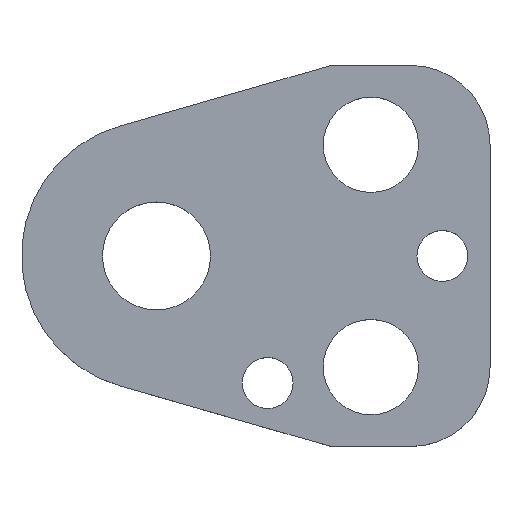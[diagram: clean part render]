
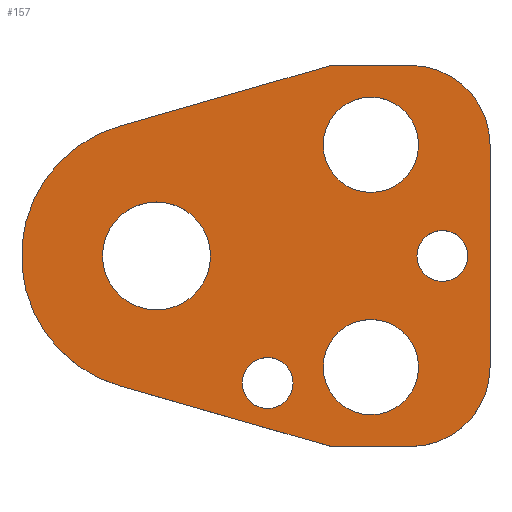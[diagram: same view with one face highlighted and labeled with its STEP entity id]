
A CAD part, top view. The second image highlights one B-rep face of the part: STEP entity #157.
In plain terms, the highlighted planar face has unit normal (0, 0, 1).
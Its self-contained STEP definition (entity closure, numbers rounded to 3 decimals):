
#103=FACE_BOUND('',#207,.T.);
#104=FACE_BOUND('',#208,.T.);
#105=FACE_BOUND('',#209,.T.);
#106=FACE_BOUND('',#210,.T.);
#107=FACE_BOUND('',#211,.T.);
#108=FACE_BOUND('',#212,.T.);
#122=CIRCLE('',#480,10.);
#124=CIRCLE('',#484,10.);
#127=CIRCLE('',#490,17.);
#138=CIRCLE('',#503,3.2);
#139=CIRCLE('',#504,3.2);
#140=CIRCLE('',#505,6.);
#141=CIRCLE('',#506,6.);
#142=CIRCLE('',#507,6.);
#143=CIRCLE('',#508,6.);
#144=CIRCLE('',#509,3.2);
#145=CIRCLE('',#510,3.2);
#146=CIRCLE('',#511,6.8);
#147=CIRCLE('',#512,6.8);
#157=ADVANCED_FACE('',(#103,#104,#105,#106,#107,#108),#174,.T.);
#174=PLANE('',#513);
#207=EDGE_LOOP('',(#273,#274,#275,#276,#277,#278,#279,#280));
#208=EDGE_LOOP('',(#281,#282));
#209=EDGE_LOOP('',(#283,#284));
#210=EDGE_LOOP('',(#285,#286));
#211=EDGE_LOOP('',(#287,#288));
#212=EDGE_LOOP('',(#289,#290));
#273=ORIENTED_EDGE('',*,*,#368,.T.);
#274=ORIENTED_EDGE('',*,*,#372,.T.);
#275=ORIENTED_EDGE('',*,*,#375,.T.);
#276=ORIENTED_EDGE('',*,*,#378,.T.);
#277=ORIENTED_EDGE('',*,*,#381,.T.);
#278=ORIENTED_EDGE('',*,*,#384,.T.);
#279=ORIENTED_EDGE('',*,*,#387,.T.);
#280=ORIENTED_EDGE('',*,*,#390,.T.);
#281=ORIENTED_EDGE('',*,*,#401,.T.);
#282=ORIENTED_EDGE('',*,*,#402,.T.);
#283=ORIENTED_EDGE('',*,*,#403,.T.);
#284=ORIENTED_EDGE('',*,*,#404,.T.);
#285=ORIENTED_EDGE('',*,*,#405,.T.);
#286=ORIENTED_EDGE('',*,*,#406,.T.);
#287=ORIENTED_EDGE('',*,*,#407,.T.);
#288=ORIENTED_EDGE('',*,*,#408,.T.);
#289=ORIENTED_EDGE('',*,*,#409,.T.);
#290=ORIENTED_EDGE('',*,*,#410,.T.);
#332=VERTEX_POINT('',#649);
#333=VERTEX_POINT('',#651);
#336=VERTEX_POINT('',#658);
#338=VERTEX_POINT('',#664);
#340=VERTEX_POINT('',#670);
#342=VERTEX_POINT('',#676);
#344=VERTEX_POINT('',#682);
#346=VERTEX_POINT('',#688);
#357=VERTEX_POINT('',#717);
#358=VERTEX_POINT('',#718);
#359=VERTEX_POINT('',#721);
#360=VERTEX_POINT('',#722);
#361=VERTEX_POINT('',#725);
#362=VERTEX_POINT('',#726);
#363=VERTEX_POINT('',#729);
#364=VERTEX_POINT('',#730);
#365=VERTEX_POINT('',#733);
#366=VERTEX_POINT('',#734);
#368=EDGE_CURVE('',#333,#332,#422,.T.);
#372=EDGE_CURVE('',#332,#336,#426,.T.);
#375=EDGE_CURVE('',#336,#338,#122,.T.);
#378=EDGE_CURVE('',#338,#340,#430,.T.);
#381=EDGE_CURVE('',#340,#342,#124,.T.);
#384=EDGE_CURVE('',#342,#344,#434,.T.);
#387=EDGE_CURVE('',#344,#346,#437,.T.);
#390=EDGE_CURVE('',#346,#333,#127,.T.);
#401=EDGE_CURVE('',#357,#358,#138,.T.);
#402=EDGE_CURVE('',#358,#357,#139,.T.);
#403=EDGE_CURVE('',#359,#360,#140,.T.);
#404=EDGE_CURVE('',#360,#359,#141,.T.);
#405=EDGE_CURVE('',#361,#362,#142,.T.);
#406=EDGE_CURVE('',#362,#361,#143,.T.);
#407=EDGE_CURVE('',#363,#364,#144,.T.);
#408=EDGE_CURVE('',#364,#363,#145,.T.);
#409=EDGE_CURVE('',#365,#366,#146,.T.);
#410=EDGE_CURVE('',#366,#365,#147,.T.);
#422=LINE('',#650,#450);
#426=LINE('',#659,#454);
#430=LINE('',#671,#458);
#434=LINE('',#683,#462);
#437=LINE('',#689,#465);
#450=VECTOR('',#527,1.);
#454=VECTOR('',#533,1.);
#458=VECTOR('',#545,1.);
#462=VECTOR('',#557,1.);
#465=VECTOR('',#562,1.);
#480=AXIS2_PLACEMENT_3D('',#665,#538,#539);
#484=AXIS2_PLACEMENT_3D('',#677,#550,#551);
#490=AXIS2_PLACEMENT_3D('',#693,#568,#569);
#503=AXIS2_PLACEMENT_3D('',#716,#594,#595);
#504=AXIS2_PLACEMENT_3D('',#719,#596,#597);
#505=AXIS2_PLACEMENT_3D('',#720,#598,#599);
#506=AXIS2_PLACEMENT_3D('',#723,#600,#601);
#507=AXIS2_PLACEMENT_3D('',#724,#602,#603);
#508=AXIS2_PLACEMENT_3D('',#727,#604,#605);
#509=AXIS2_PLACEMENT_3D('',#728,#606,#607);
#510=AXIS2_PLACEMENT_3D('',#731,#608,#609);
#511=AXIS2_PLACEMENT_3D('',#732,#610,#611);
#512=AXIS2_PLACEMENT_3D('',#735,#612,#613);
#513=AXIS2_PLACEMENT_3D('',#736,#614,#615);
#527=DIRECTION('',(0.961,-0.276,0.));
#533=DIRECTION('',(1.,0.,0.));
#538=DIRECTION('',(0.,0.,1.));
#539=DIRECTION('',(-0.707,0.707,0.));
#545=DIRECTION('',(0.,1.,0.));
#550=DIRECTION('',(0.,0.,1.));
#551=DIRECTION('',(-0.707,-0.707,0.));
#557=DIRECTION('',(-1.,0.,0.));
#562=DIRECTION('',(-0.961,-0.276,0.));
#568=DIRECTION('',(0.,0.,1.));
#569=DIRECTION('',(1.,0.,0.));
#594=DIRECTION('',(0.,0.,-1.));
#595=DIRECTION('',(-1.,0.,0.));
#596=DIRECTION('',(0.,0.,-1.));
#597=DIRECTION('',(1.,0.,0.));
#598=DIRECTION('',(0.,0.,-1.));
#599=DIRECTION('',(-1.,0.,0.));
#600=DIRECTION('',(0.,0.,-1.));
#601=DIRECTION('',(1.,0.,0.));
#602=DIRECTION('',(0.,0.,-1.));
#603=DIRECTION('',(-1.,0.,0.));
#604=DIRECTION('',(0.,0.,-1.));
#605=DIRECTION('',(1.,0.,0.));
#606=DIRECTION('',(0.,0.,-1.));
#607=DIRECTION('',(-1.,0.,0.));
#608=DIRECTION('',(0.,0.,-1.));
#609=DIRECTION('',(1.,0.,0.));
#610=DIRECTION('',(0.,0.,-1.));
#611=DIRECTION('',(-1.,0.,0.));
#612=DIRECTION('',(0.,0.,-1.));
#613=DIRECTION('',(1.,0.,0.));
#614=DIRECTION('',(0.,0.,1.));
#615=DIRECTION('',(0.961,-0.276,0.));
#649=CARTESIAN_POINT('',(22.,-24.,5.));
#650=CARTESIAN_POINT('',(22.,-24.,5.));
#651=CARTESIAN_POINT('',(-4.69,-16.34,5.));
#658=CARTESIAN_POINT('',(32.,-24.,5.));
#659=CARTESIAN_POINT('',(22.,-24.,5.));
#664=CARTESIAN_POINT('',(42.,-14.,5.));
#665=CARTESIAN_POINT('',(32.,-14.,5.));
#670=CARTESIAN_POINT('',(42.,14.,5.));
#671=CARTESIAN_POINT('',(42.,14.,5.));
#676=CARTESIAN_POINT('',(32.,24.,5.));
#677=CARTESIAN_POINT('',(32.,14.,5.));
#682=CARTESIAN_POINT('',(22.,24.,5.));
#683=CARTESIAN_POINT('',(22.,24.,5.));
#688=CARTESIAN_POINT('',(-4.69,16.34,5.));
#689=CARTESIAN_POINT('',(22.,24.,5.));
#693=CARTESIAN_POINT('',(0.,0.,5.));
#716=CARTESIAN_POINT('',(36.,0.,5.));
#717=CARTESIAN_POINT('',(36.,3.2,5.));
#718=CARTESIAN_POINT('',(36.,-3.2,5.));
#719=CARTESIAN_POINT('',(36.,0.,5.));
#720=CARTESIAN_POINT('',(27.,14.,5.));
#721=CARTESIAN_POINT('',(27.,20.,5.));
#722=CARTESIAN_POINT('',(27.,8.,5.));
#723=CARTESIAN_POINT('',(27.,14.,5.));
#724=CARTESIAN_POINT('',(27.,-14.,5.));
#725=CARTESIAN_POINT('',(27.,-8.,5.));
#726=CARTESIAN_POINT('',(27.,-20.,5.));
#727=CARTESIAN_POINT('',(27.,-14.,5.));
#728=CARTESIAN_POINT('',(14.,-16.,5.));
#729=CARTESIAN_POINT('',(14.,-12.8,5.));
#730=CARTESIAN_POINT('',(14.,-19.2,5.));
#731=CARTESIAN_POINT('',(14.,-16.,5.));
#732=CARTESIAN_POINT('',(0.,0.,5.));
#733=CARTESIAN_POINT('',(0.,6.8,5.));
#734=CARTESIAN_POINT('',(0.,-6.8,5.));
#735=CARTESIAN_POINT('',(0.,0.,5.));
#736=CARTESIAN_POINT('',(-4.69,-16.34,5.));
